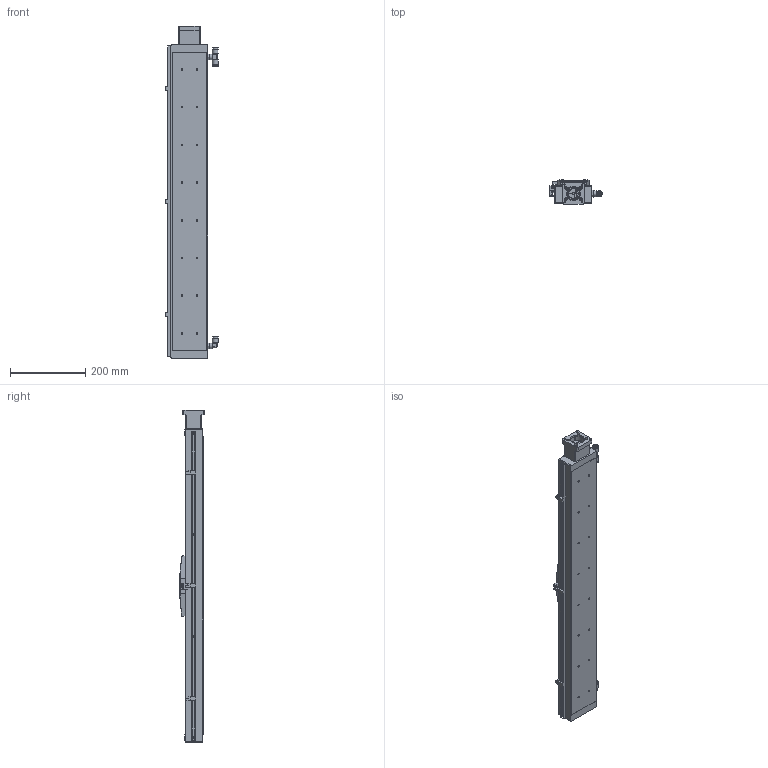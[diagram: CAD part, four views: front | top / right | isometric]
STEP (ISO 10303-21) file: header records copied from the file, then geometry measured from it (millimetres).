
FILE_DESCRIPTION((''),'2;1');
FILE_NAME('E:\libraries\UIA actuator library 2016\Clean room actuator\UIA098CR12DC\UIA098CR12 stp file 05May16\UIA098CR12DC-600-R16_ _-M23-P13-C10-S.stp','2016-05-09T15:09:29',('h029'),(''),'Autodesk Inventor 11','Autodesk Inventor 11','');
FILE_SCHEMA(('AUTOMOTIVE_DESIGN { 1 0 10303 214 1 1 1 1 }'));
Length unit declared in the file: millimetre
Products named in the file (13): UIA098CR12DC-600; body, UIA098CR12DC-600; carriage, UIA098CR12DC; Sensor Switch, UIA098CR12DC; Motor mount; Motor House Top Cover; SOH-25C; SOH-25C-2; SOH-25C-3; SOH-25C-1; Sensor Rail, UIA098CR12DC-600_MIR; vacuum port 1, UIA098CR12DC_MIR; vacuum port 2, UIA098CR12DC_MIR
Assembly tree (12 placements, depth 3):
  UIA098CR12DC-600
    body, UIA098CR12DC-600
    carriage, UIA098CR12DC
    Sensor Switch, UIA098CR12DC
    Motor mount
    Motor House Top Cover
    SOH-25C
      SOH-25C-2
      SOH-25C-3
      SOH-25C-1
    Sensor Rail, UIA098CR12DC-600_MIR
    vacuum port 1, UIA098CR12DC_MIR
    vacuum port 2, UIA098CR12DC_MIR
Bounding box: 138.4 x 65.5 x 880 mm (x, y, z)
Volume: 3981748.4 mm3; surface area: 382677.8 mm2
Topology: 11 solids, 11 shells, 696 faces, 1803 edges, 1176 vertices
Faces by surface type: plane 301, bspline 300, cylinder 91, cone 4
Full cylindrical faces by diameter (mm): 3.5 x4, 5.6 x8, 8 x4, 9 x2, 10 x1, 13 x1, 15 x2, 18 x1, 25.5 x3, 37 x1, 38.1 x1
Entity records: 22568 total; most frequent: CARTESIAN_POINT 6656, ORIENTED_EDGE 3222, DIRECTION 2843, EDGE_CURVE 1611, VECTOR 1155, LINE 1155, VERTEX_POINT 1117, EDGE_LOOP 962
